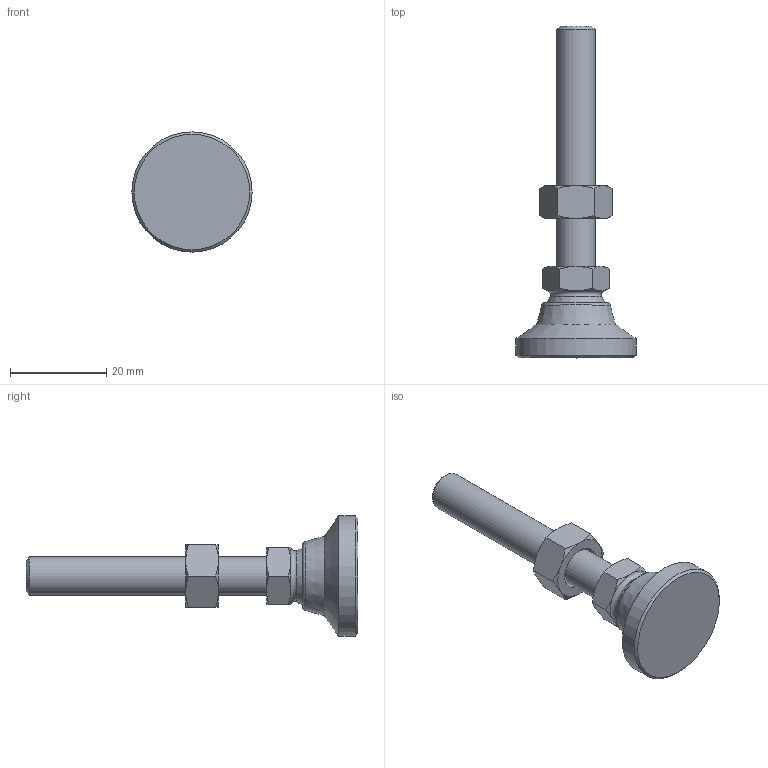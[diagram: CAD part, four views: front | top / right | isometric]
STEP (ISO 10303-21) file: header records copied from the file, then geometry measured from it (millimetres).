
FILE_DESCRIPTION( ( 'STEP AP214' ), ' ' );
FILE_NAME( 'O:/ganter_2015/teil_2/2_5/gn343_2/gn343_2_os/Levelling foot with threaded stud GN 343.2-25-M8-50-OS-(0).stp', '2015-10-26T09:06:29', ( '' ), ( '' ), ' ', 'PARTsolutions', ' ' );
FILE_SCHEMA( ( 'AUTOMOTIVE_DESIGN { 1 0 10303 214 1 1 1 1 }' ) );
Length unit declared in the file: millimetre
Products named in the file (4): Levelling foot with threaded stud GN 343.2-25-M8-50-OS-(0); _Levelling foot with threaded stud GN 343.2-25-M8-50-OS-(0)_foot; _Levelling foot with threaded stud GN 343.2-25-M8-50-OS-(0)_screw; _Stainless Steel-Levelling feet GN 343.2-25-M8-50-OS-(0)_nut
Assembly tree (3 placements, depth 2):
  Levelling foot with threaded stud GN 343.2-25-M8-50-OS-(0)
    _Levelling foot with threaded stud GN 343.2-25-M8-50-OS-(0)_foot
    _Levelling foot with threaded stud GN 343.2-25-M8-50-OS-(0)_screw
    _Stainless Steel-Levelling feet GN 343.2-25-M8-50-OS-(0)_nut
Bounding box: 25 x 69 x 25 mm (x, y, z)
Volume: 7907.7 mm3; surface area: 4346.1 mm2
Topology: 3 solids, 3 shells, 55 faces, 122 edges, 73 vertices
Faces by surface type: cone 30, plane 18, cylinder 3, torus 2, sphere 1, bspline 1
Full cylindrical faces by diameter (mm): 6.647 x1, 8 x1, 25 x1
Entity records: 2119 total; most frequent: CARTESIAN_POINT 550, ORIENTED_EDGE 210, DIRECTION 206, EDGE_CURVE 105, AXIS2_PLACEMENT_3D 97, VERTEX_POINT 71, EDGE_LOOP 70, FACE_OUTER_BOUND 60
